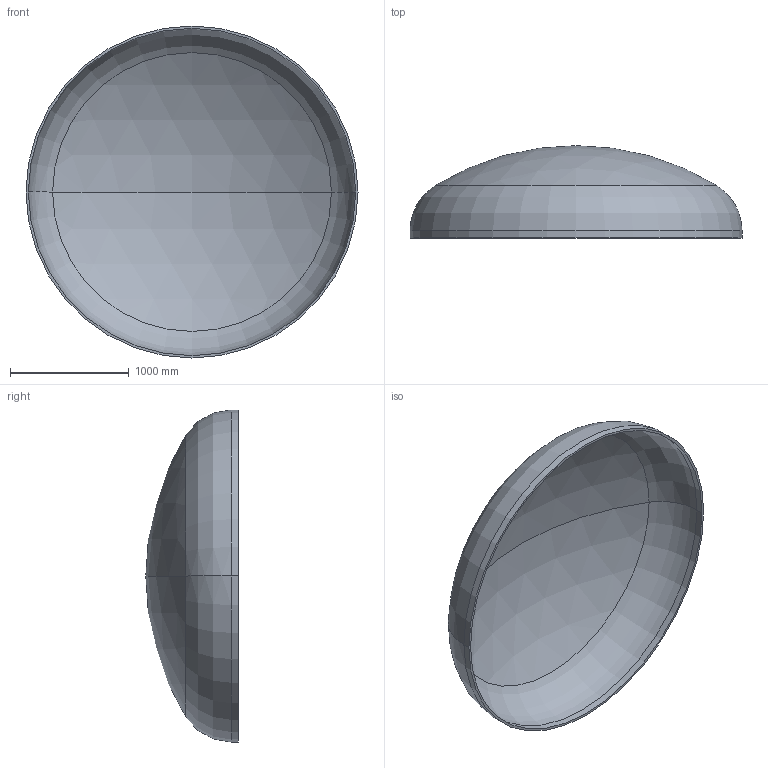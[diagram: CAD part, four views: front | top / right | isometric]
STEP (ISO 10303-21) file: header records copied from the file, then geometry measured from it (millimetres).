
FILE_DESCRIPTION (( 'STEP AP203' ), '1' );
FILE_NAME ('DIN 28013 Korbbogenform_-_Boden DIN 28013 - 2800 x 60 - I - s=20.step', '2016-07-01T16:46:49', ( '' ), ( '' ), 'SwSTEP 2.0', 'SolidWorks 2013', '' );
FILE_SCHEMA (( 'CONFIG_CONTROL_DESIGN' ));
Length unit declared in the file: millimetre
Products named in the file (1): DIN 28013 Korbbogenform_-_Boden DIN 28013 - 2800 x 60 - I - s=20
Bounding box: 2800 x 779.35 x 2800 mm (x, y, z)
Volume: 179348750 mm3; surface area: 18110378.4 mm2
Topology: 1 solids, 1 shells, 13 faces, 24 edges, 14 vertices
Faces by surface type: torus 4, cylinder 4, sphere 4, plane 1
Entity records: 407 total; most frequent: DIRECTION 72, CARTESIAN_POINT 52, ORIENTED_EDGE 48, AXIS2_PLACEMENT_3D 34, EDGE_CURVE 24, CIRCLE 20, EDGE_LOOP 14, VERTEX_POINT 14
